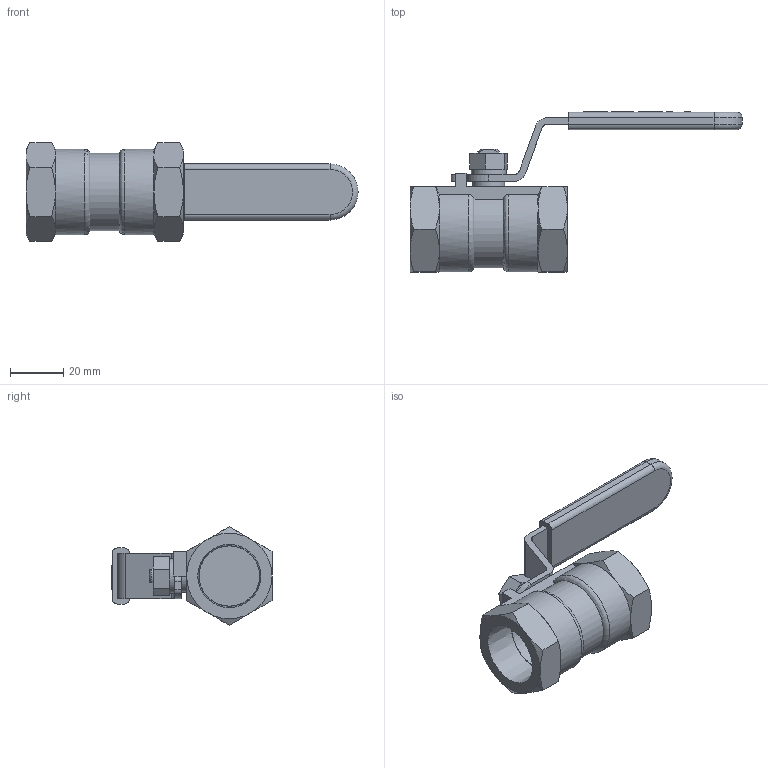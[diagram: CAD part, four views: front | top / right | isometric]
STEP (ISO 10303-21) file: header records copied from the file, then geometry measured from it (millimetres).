
FILE_DESCRIPTION(/* description */ ('Eriks item no: 12427444'),/* implementation_level */ '2;1');
FILE_NAME(/* name */ '7744-DN20-RB-1000PSI-NPT.stp',/* time_stamp */ '2024-02-16T13:17:21+01:00',/* author */ ('roger.thijssen'),/* organization */ (''),/* preprocessor_version */ 'ST-DEVELOPER v19.2',/* originating_system */ 'Autodesk Inventor 2024',/* authorisation */ '');
FILE_SCHEMA (('AUTOMOTIVE_DESIGN { 1 0 10303 214 3 1 1 }'));
Length unit declared in the file: millimetre
Products named in the file (1): Ball valve, 7744-DN20-RB-1000PSI-NPT
Bounding box: 124.5 x 60 x 36.95 mm (x, y, z)
Volume: 42803.1 mm3; surface area: 17101.9 mm2
Topology: 1 solids, 1 shells, 331 faces, 854 edges, 556 vertices
Faces by surface type: plane 231, cylinder 48, cone 28, bspline 20, torus 4
Full cylindrical faces by diameter (mm): 12 x1, 13 x1, 22.631 x2
Entity records: 10490 total; most frequent: CARTESIAN_POINT 2182, ORIENTED_EDGE 1708, DIRECTION 1514, EDGE_CURVE 854, LINE 626, VECTOR 626, VERTEX_POINT 556, AXIS2_PLACEMENT_3D 444
